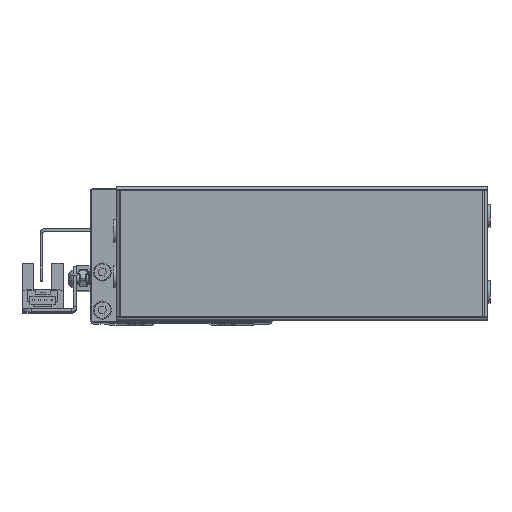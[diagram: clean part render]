
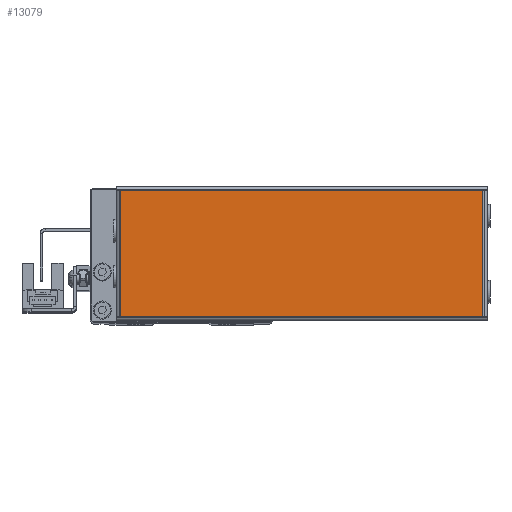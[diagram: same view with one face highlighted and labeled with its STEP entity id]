
A CAD part, top view. The second image highlights one B-rep face of the part: STEP entity #13079.
In plain terms, the highlighted planar face has unit normal (0, 0, 1) as drawn and (0, 0, -1) by its records, which use the part's own axes.
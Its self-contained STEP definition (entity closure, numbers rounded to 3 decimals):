
#2314 = CARTESIAN_POINT ( 'NONE',  ( 1.5, 42.7, -1. ) ) ;
#3400 = AXIS2_PLACEMENT_3D ( 'NONE', #39345, #34422, #15895 ) ;
#4613 = VECTOR ( 'NONE', #4908, 1000. ) ;
#4908 = DIRECTION ( 'NONE',  ( 0., -1., 0. ) ) ;
#5470 = CARTESIAN_POINT ( 'NONE',  ( 122., 1.3, -1. ) ) ;
#9456 = LINE ( 'NONE', #50678, #51126 ) ;
#10606 = CARTESIAN_POINT ( 'NONE',  ( 120.5, 1.3, -1. ) ) ;
#13079 = ADVANCED_FACE ( 'NONE', ( #53257 ), #25886, .T. ) ;
#13677 = VERTEX_POINT ( 'NONE', #2314 ) ;
#14771 = ORIENTED_EDGE ( 'NONE', *, *, #40462, .T. ) ;
#15696 = ORIENTED_EDGE ( 'NONE', *, *, #26149, .T. ) ;
#15895 = DIRECTION ( 'NONE',  ( -1., 0., 0. ) ) ;
#18766 = LINE ( 'NONE', #31948, #24613 ) ;
#19841 = ORIENTED_EDGE ( 'NONE', *, *, #56387, .T. ) ;
#20603 = ORIENTED_EDGE ( 'NONE', *, *, #53269, .T. ) ;
#21766 = VERTEX_POINT ( 'NONE', #34512 ) ;
#23295 = EDGE_LOOP ( 'NONE', ( #20603, #19841, #14771, #15696 ) ) ;
#23718 = DIRECTION ( 'NONE',  ( 0., 1., 0. ) ) ;
#24613 = VECTOR ( 'NONE', #55611, 1000. ) ;
#25365 = LINE ( 'NONE', #5470, #30479 ) ;
#25886 = PLANE ( 'NONE',  #3400 ) ;
#26149 = EDGE_CURVE ( 'NONE', #21766, #13677, #9456, .T. ) ;
#30479 = VECTOR ( 'NONE', #42218, 1000. ) ;
#31948 = CARTESIAN_POINT ( 'NONE',  ( 0., 42.7, -1. ) ) ;
#32733 = VERTEX_POINT ( 'NONE', #56045 ) ;
#34422 = DIRECTION ( 'NONE',  ( 0., 0., -1. ) ) ;
#34499 = LINE ( 'NONE', #56313, #4613 ) ;
#34512 = CARTESIAN_POINT ( 'NONE',  ( 1.5, 1.3, -1. ) ) ;
#38303 = VERTEX_POINT ( 'NONE', #10606 ) ;
#39345 = CARTESIAN_POINT ( 'NONE',  ( 0., 0., -1. ) ) ;
#40462 = EDGE_CURVE ( 'NONE', #38303, #21766, #25365, .T. ) ;
#42218 = DIRECTION ( 'NONE',  ( -1., 0., 0. ) ) ;
#50678 = CARTESIAN_POINT ( 'NONE',  ( 1.5, 1.3, -1. ) ) ;
#51126 = VECTOR ( 'NONE', #23718, 1000. ) ;
#53257 = FACE_OUTER_BOUND ( 'NONE', #23295, .T. ) ;
#53269 = EDGE_CURVE ( 'NONE', #13677, #32733, #18766, .T. ) ;
#55611 = DIRECTION ( 'NONE',  ( 1., 0., 0. ) ) ;
#56045 = CARTESIAN_POINT ( 'NONE',  ( 120.5, 42.7, -1. ) ) ;
#56313 = CARTESIAN_POINT ( 'NONE',  ( 120.5, 42.7, -1. ) ) ;
#56387 = EDGE_CURVE ( 'NONE', #32733, #38303, #34499, .T. ) ;
